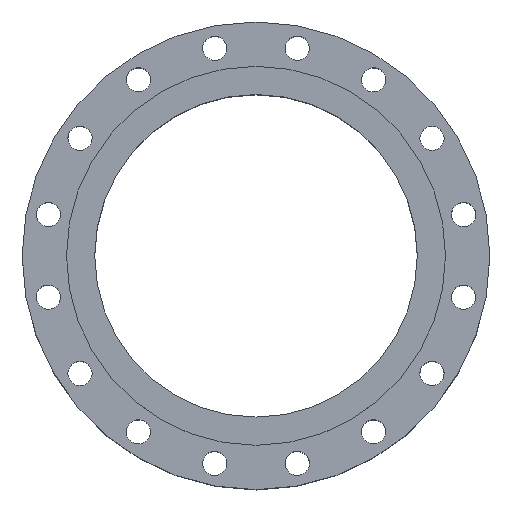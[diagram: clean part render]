
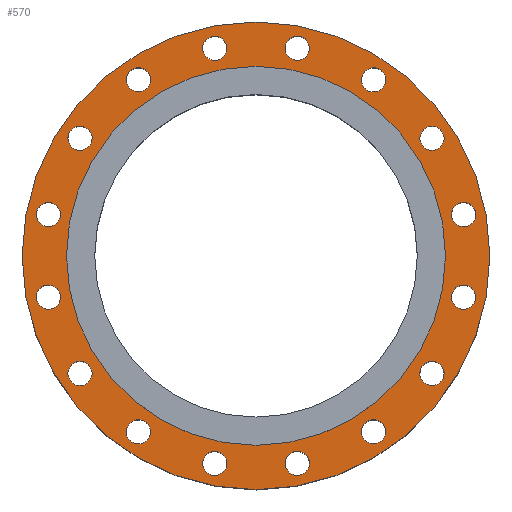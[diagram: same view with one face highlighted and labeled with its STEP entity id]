
A CAD part, top view. The second image highlights one B-rep face of the part: STEP entity #570.
In plain terms, the highlighted planar face has unit normal (0, 0, 1).
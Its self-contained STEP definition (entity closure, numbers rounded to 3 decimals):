
#570=ADVANCED_FACE('',(#1227,#1229,#1231,#1233,#1235,#1237,#1239,#1241,#1243,#1245,
#1247,#1249,#1251,#1253,#1255,#1257,#1259,#1261),#1263,.T.);
#1227=FACE_BOUND('',#1228,.T.);
#1228=EDGE_LOOP('',(#1588));
#1229=FACE_BOUND('',#1230,.T.);
#1230=EDGE_LOOP('',(#1589));
#1231=FACE_BOUND('',#1232,.T.);
#1232=EDGE_LOOP('',(#1590));
#1233=FACE_BOUND('',#1234,.T.);
#1234=EDGE_LOOP('',(#1591));
#1235=FACE_BOUND('',#1236,.T.);
#1236=EDGE_LOOP('',(#1592));
#1237=FACE_BOUND('',#1238,.T.);
#1238=EDGE_LOOP('',(#1593));
#1239=FACE_BOUND('',#1240,.T.);
#1240=EDGE_LOOP('',(#1594));
#1241=FACE_BOUND('',#1242,.T.);
#1242=EDGE_LOOP('',(#1595));
#1243=FACE_BOUND('',#1244,.T.);
#1244=EDGE_LOOP('',(#1596));
#1245=FACE_BOUND('',#1246,.T.);
#1246=EDGE_LOOP('',(#1597));
#1247=FACE_BOUND('',#1248,.T.);
#1248=EDGE_LOOP('',(#1598));
#1249=FACE_BOUND('',#1250,.T.);
#1250=EDGE_LOOP('',(#1599));
#1251=FACE_BOUND('',#1252,.T.);
#1252=EDGE_LOOP('',(#1600));
#1253=FACE_BOUND('',#1254,.T.);
#1254=EDGE_LOOP('',(#1601));
#1255=FACE_BOUND('',#1256,.T.);
#1256=EDGE_LOOP('',(#1602));
#1257=FACE_BOUND('',#1258,.T.);
#1258=EDGE_LOOP('',(#1603));
#1259=FACE_BOUND('',#1260,.T.);
#1260=EDGE_LOOP('',(#1604));
#1261=FACE_BOUND('',#1262,.T.);
#1262=EDGE_LOOP('',(#1605));
#1263=PLANE('',#1264);
#1264=AXIS2_PLACEMENT_3D('',#1265,#1266,#1267);
#1265=CARTESIAN_POINT('',(0.,0.,117.5));
#1266=DIRECTION('',(0.,0.,1.));
#1267=DIRECTION('',(0.,1.,0.));
#1588=ORIENTED_EDGE('',*,*,#1724,.F.);
#1589=ORIENTED_EDGE('',*,*,#1725,.T.);
#1590=ORIENTED_EDGE('',*,*,#1726,.T.);
#1591=ORIENTED_EDGE('',*,*,#1727,.T.);
#1592=ORIENTED_EDGE('',*,*,#1728,.T.);
#1593=ORIENTED_EDGE('',*,*,#1729,.T.);
#1594=ORIENTED_EDGE('',*,*,#1730,.T.);
#1595=ORIENTED_EDGE('',*,*,#1731,.T.);
#1596=ORIENTED_EDGE('',*,*,#1732,.T.);
#1597=ORIENTED_EDGE('',*,*,#1733,.T.);
#1598=ORIENTED_EDGE('',*,*,#1734,.T.);
#1599=ORIENTED_EDGE('',*,*,#1735,.T.);
#1600=ORIENTED_EDGE('',*,*,#1736,.T.);
#1601=ORIENTED_EDGE('',*,*,#1737,.T.);
#1602=ORIENTED_EDGE('',*,*,#1738,.T.);
#1603=ORIENTED_EDGE('',*,*,#1739,.T.);
#1604=ORIENTED_EDGE('',*,*,#1758,.T.);
#1605=ORIENTED_EDGE('',*,*,#1740,.T.);
#1724=EDGE_CURVE('',#1918,#1918,#1919,.T.);
#1725=EDGE_CURVE('',#1920,#1920,#1921,.T.);
#1726=EDGE_CURVE('',#1922,#1922,#1923,.T.);
#1727=EDGE_CURVE('',#1924,#1924,#1925,.T.);
#1728=EDGE_CURVE('',#1926,#1926,#1927,.T.);
#1729=EDGE_CURVE('',#1928,#1928,#1929,.T.);
#1730=EDGE_CURVE('',#1930,#1930,#1931,.T.);
#1731=EDGE_CURVE('',#1932,#1932,#1933,.T.);
#1732=EDGE_CURVE('',#1934,#1934,#1935,.T.);
#1733=EDGE_CURVE('',#1936,#1936,#1937,.T.);
#1734=EDGE_CURVE('',#1938,#1938,#1939,.T.);
#1735=EDGE_CURVE('',#1940,#1940,#1941,.T.);
#1736=EDGE_CURVE('',#1942,#1942,#1943,.T.);
#1737=EDGE_CURVE('',#1944,#1944,#1945,.T.);
#1738=EDGE_CURVE('',#1946,#1946,#1947,.T.);
#1739=EDGE_CURVE('',#1948,#1948,#1949,.T.);
#1740=EDGE_CURVE('',#1950,#1950,#1951,.T.);
#1758=EDGE_CURVE('',#1986,#1986,#1987,.T.);
#1918=VERTEX_POINT('',#3362);
#1919=CIRCLE('',#3363,290.);
#1920=VERTEX_POINT('',#3367);
#1921=CIRCLE('',#3368,15.);
#1922=VERTEX_POINT('',#3372);
#1923=CIRCLE('',#3373,15.);
#1924=VERTEX_POINT('',#3377);
#1925=CIRCLE('',#3378,15.);
#1926=VERTEX_POINT('',#3382);
#1927=CIRCLE('',#3383,15.);
#1928=VERTEX_POINT('',#3387);
#1929=CIRCLE('',#3388,15.);
#1930=VERTEX_POINT('',#3392);
#1931=CIRCLE('',#3393,15.);
#1932=VERTEX_POINT('',#3397);
#1933=CIRCLE('',#3398,15.);
#1934=VERTEX_POINT('',#3402);
#1935=CIRCLE('',#3403,15.);
#1936=VERTEX_POINT('',#3407);
#1937=CIRCLE('',#3408,15.);
#1938=VERTEX_POINT('',#3412);
#1939=CIRCLE('',#3413,15.);
#1940=VERTEX_POINT('',#3417);
#1941=CIRCLE('',#3418,15.);
#1942=VERTEX_POINT('',#3422);
#1943=CIRCLE('',#3423,15.);
#1944=VERTEX_POINT('',#3427);
#1945=CIRCLE('',#3428,15.);
#1946=VERTEX_POINT('',#3432);
#1947=CIRCLE('',#3433,15.);
#1948=VERTEX_POINT('',#3437);
#1949=CIRCLE('',#3438,15.);
#1950=VERTEX_POINT('',#3442);
#1951=CIRCLE('',#3443,15.);
#1986=VERTEX_POINT('',#3532);
#1987=CIRCLE('',#3533,235.);
#3362=CARTESIAN_POINT('',(0.,290.,117.5));
#3363=AXIS2_PLACEMENT_3D('',#3364,#3365,#3366);
#3364=CARTESIAN_POINT('',(0.,0.,117.5));
#3365=DIRECTION('',(0.,0.,-1.));
#3366=DIRECTION('',(0.,1.,0.));
#3367=CARTESIAN_POINT('',(131.979,224.001,117.5));
#3368=AXIS2_PLACEMENT_3D('',#3369,#3370,#3371);
#3369=CARTESIAN_POINT('',(145.837,218.261,117.5));
#3370=DIRECTION('',(0.,0.,-1.));
#3371=DIRECTION('',(-0.924,0.383,0.));
#3372=CARTESIAN_POINT('',(207.654,156.444,117.5));
#3373=AXIS2_PLACEMENT_3D('',#3374,#3375,#3376);
#3374=CARTESIAN_POINT('',(218.261,145.837,117.5));
#3375=DIRECTION('',(0.,0.,-1.));
#3376=DIRECTION('',(-0.707,0.707,0.));
#3377=CARTESIAN_POINT('',(251.716,65.069,117.5));
#3378=AXIS2_PLACEMENT_3D('',#3379,#3380,#3381);
#3379=CARTESIAN_POINT('',(257.456,51.211,117.5));
#3380=DIRECTION('',(0.,0.,-1.));
#3381=DIRECTION('',(-0.383,0.924,0.));
#3382=CARTESIAN_POINT('',(257.456,-36.211,117.5));
#3383=AXIS2_PLACEMENT_3D('',#3384,#3385,#3386);
#3384=CARTESIAN_POINT('',(257.456,-51.211,117.5));
#3385=DIRECTION('',(0.,0.,-1.));
#3386=DIRECTION('',(0.,1.,0.));
#3387=CARTESIAN_POINT('',(224.001,-131.979,117.5));
#3388=AXIS2_PLACEMENT_3D('',#3389,#3390,#3391);
#3389=CARTESIAN_POINT('',(218.261,-145.837,117.5));
#3390=DIRECTION('',(0.,0.,-1.));
#3391=DIRECTION('',(0.383,0.924,0.));
#3392=CARTESIAN_POINT('',(156.444,-207.654,117.5));
#3393=AXIS2_PLACEMENT_3D('',#3394,#3395,#3396);
#3394=CARTESIAN_POINT('',(145.837,-218.261,117.5));
#3395=DIRECTION('',(0.,0.,-1.));
#3396=DIRECTION('',(0.707,0.707,0.));
#3397=CARTESIAN_POINT('',(65.069,-251.716,117.5));
#3398=AXIS2_PLACEMENT_3D('',#3399,#3400,#3401);
#3399=CARTESIAN_POINT('',(51.211,-257.456,117.5));
#3400=DIRECTION('',(0.,0.,-1.));
#3401=DIRECTION('',(0.924,0.383,0.));
#3402=CARTESIAN_POINT('',(-36.211,-257.456,117.5));
#3403=AXIS2_PLACEMENT_3D('',#3404,#3405,#3406);
#3404=CARTESIAN_POINT('',(-51.211,-257.456,117.5));
#3405=DIRECTION('',(0.,0.,-1.));
#3406=DIRECTION('',(1.,0.,0.));
#3407=CARTESIAN_POINT('',(-131.979,-224.001,117.5));
#3408=AXIS2_PLACEMENT_3D('',#3409,#3410,#3411);
#3409=CARTESIAN_POINT('',(-145.837,-218.261,117.5));
#3410=DIRECTION('',(0.,0.,-1.));
#3411=DIRECTION('',(0.924,-0.383,0.));
#3412=CARTESIAN_POINT('',(-207.654,-156.444,117.5));
#3413=AXIS2_PLACEMENT_3D('',#3414,#3415,#3416);
#3414=CARTESIAN_POINT('',(-218.261,-145.837,117.5));
#3415=DIRECTION('',(0.,0.,-1.));
#3416=DIRECTION('',(0.707,-0.707,0.));
#3417=CARTESIAN_POINT('',(-251.716,-65.069,117.5));
#3418=AXIS2_PLACEMENT_3D('',#3419,#3420,#3421);
#3419=CARTESIAN_POINT('',(-257.456,-51.211,117.5));
#3420=DIRECTION('',(0.,0.,-1.));
#3421=DIRECTION('',(0.383,-0.924,0.));
#3422=CARTESIAN_POINT('',(-257.456,36.211,117.5));
#3423=AXIS2_PLACEMENT_3D('',#3424,#3425,#3426);
#3424=CARTESIAN_POINT('',(-257.456,51.211,117.5));
#3425=DIRECTION('',(0.,0.,-1.));
#3426=DIRECTION('',(0.,-1.,0.));
#3427=CARTESIAN_POINT('',(-224.001,131.979,117.5));
#3428=AXIS2_PLACEMENT_3D('',#3429,#3430,#3431);
#3429=CARTESIAN_POINT('',(-218.261,145.837,117.5));
#3430=DIRECTION('',(0.,0.,-1.));
#3431=DIRECTION('',(-0.383,-0.924,0.));
#3432=CARTESIAN_POINT('',(-156.444,207.654,117.5));
#3433=AXIS2_PLACEMENT_3D('',#3434,#3435,#3436);
#3434=CARTESIAN_POINT('',(-145.837,218.261,117.5));
#3435=DIRECTION('',(0.,0.,-1.));
#3436=DIRECTION('',(-0.707,-0.707,0.));
#3437=CARTESIAN_POINT('',(-65.069,251.716,117.5));
#3438=AXIS2_PLACEMENT_3D('',#3439,#3440,#3441);
#3439=CARTESIAN_POINT('',(-51.211,257.456,117.5));
#3440=DIRECTION('',(0.,0.,-1.));
#3441=DIRECTION('',(-0.924,-0.383,0.));
#3442=CARTESIAN_POINT('',(36.211,257.456,117.5));
#3443=AXIS2_PLACEMENT_3D('',#3444,#3445,#3446);
#3444=CARTESIAN_POINT('',(51.211,257.456,117.5));
#3445=DIRECTION('',(0.,0.,-1.));
#3446=DIRECTION('',(-1.,0.,0.));
#3532=CARTESIAN_POINT('',(0.,235.,117.5));
#3533=AXIS2_PLACEMENT_3D('',#3534,#3535,#3536);
#3534=CARTESIAN_POINT('',(0.,0.,117.5));
#3535=DIRECTION('',(0.,0.,-1.));
#3536=DIRECTION('',(0.,1.,0.));
